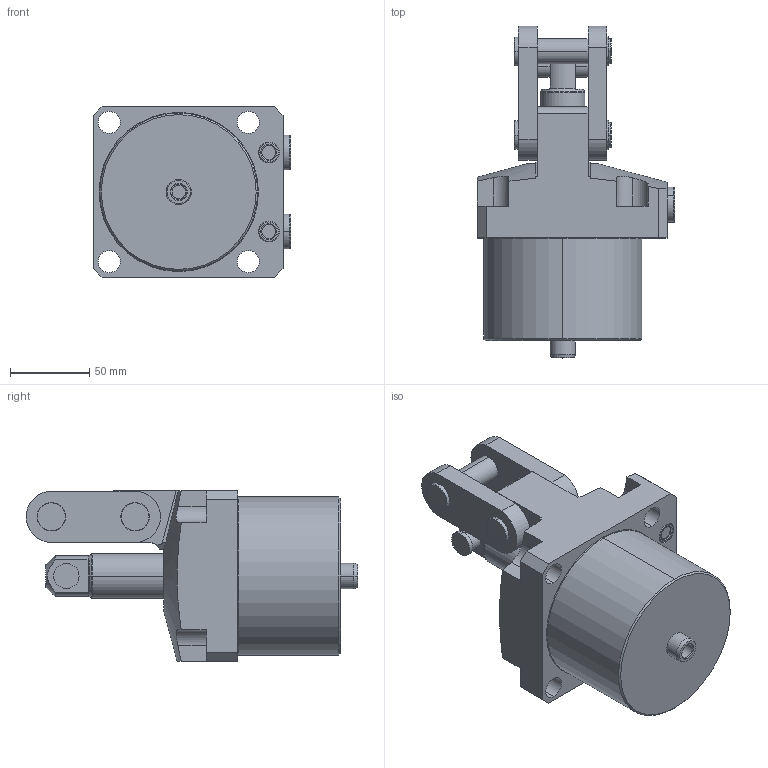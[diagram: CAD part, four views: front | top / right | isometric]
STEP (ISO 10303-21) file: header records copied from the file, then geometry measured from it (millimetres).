
FILE_DESCRIPTION(/* description */ (''),/* implementation_level */ '2;1');
FILE_NAME(/* name */ 'TPC25-LD.stp',/* time_stamp */ '2025-01-05T10:09:39+08:00',/* author */ (''),/* organization */ (''),/* preprocessor_version */ 'ST-DEVELOPER v16.7',/* originating_system */ 'SIEMENS PLM Software NX 12.0',/* authorisation */ '');
FILE_SCHEMA (('AUTOMOTIVE_DESIGN { 1 0 10303 214 3 1 1 1 }'));
Length unit declared in the file: millimetre
Products named in the file (5): TPC25-LD-04; TPC25-LD-03; TPC25-LD-02; TPC25-LD-01; TPC25-LD_stp
Assembly tree (5 placements, depth 2):
  TPC25-LD_stp
    TPC25-LD-01
    TPC25-LD-02
    TPC25-LD-03
    TPC25-LD-04  x2
Bounding box: 124.8 x 210 x 108 mm (x, y, z)
Volume: 1139177.2 mm3; surface area: 118508.5 mm2
Topology: 5 solids, 7 shells, 300 faces, 706 edges, 448 vertices
Faces by surface type: cylinder 126, plane 117, torus 34, cone 23
Entity records: 8382 total; most frequent: CARTESIAN_POINT 1583, DIRECTION 1502, ORIENTED_EDGE 1320, EDGE_CURVE 660, AXIS2_PLACEMENT_3D 599, VERTEX_POINT 420, EDGE_LOOP 326, CIRCLE 315
